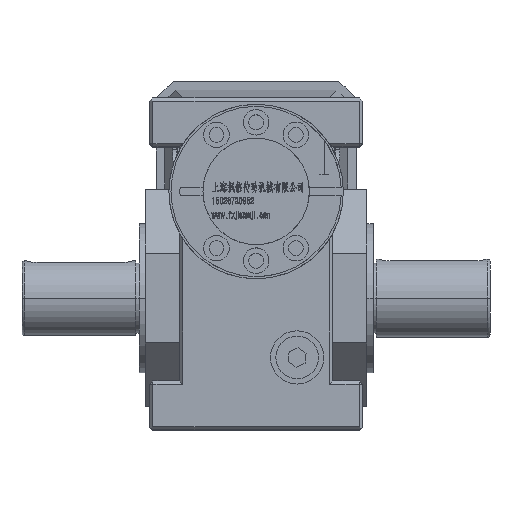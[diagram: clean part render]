
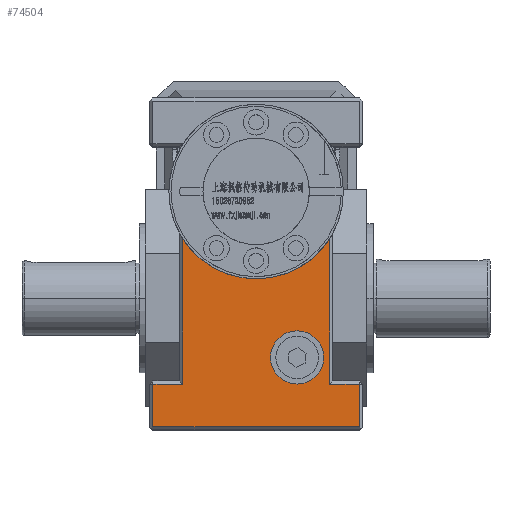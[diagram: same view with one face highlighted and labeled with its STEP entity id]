
A CAD part, top view. The second image highlights one B-rep face of the part: STEP entity #74504.
In plain terms, the highlighted planar face has unit normal (0, 0, 1).
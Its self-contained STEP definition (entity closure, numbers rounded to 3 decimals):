
#2162 = AXIS2_PLACEMENT_3D ( 'NONE', #105301, #27439, #88076 ) ;
#3432 = LINE ( 'NONE', #106292, #69213 ) ;
#4381 = VECTOR ( 'NONE', #52666, 1000. ) ;
#6116 = AXIS2_PLACEMENT_3D ( 'NONE', #69802, #103184, #85970 ) ;
#6415 = VECTOR ( 'NONE', #52557, 1000. ) ;
#6865 = EDGE_CURVE ( 'NONE', #72179, #88661, #36023, .T. ) ;
#7509 = CIRCLE ( 'NONE', #2162, 12.5 ) ;
#7943 = CARTESIAN_POINT ( 'NONE',  ( -34.5, -40.5, 68.5 ) ) ;
#9820 = ORIENTED_EDGE ( 'NONE', *, *, #95117, .T. ) ;
#10948 = LINE ( 'NONE', #94954, #4381 ) ;
#13726 = FACE_BOUND ( 'NONE', #81836, .T. ) ;
#14278 = LINE ( 'NONE', #82710, #31397 ) ;
#14666 = VERTEX_POINT ( 'NONE', #84071 ) ;
#15328 = CARTESIAN_POINT ( 'NONE',  ( 6.753, -27.925, 68.5 ) ) ;
#16458 = DIRECTION ( 'NONE',  ( -1., 0., 0. ) ) ;
#17148 = EDGE_LOOP ( 'NONE', ( #52296, #100224, #87306, #105512, #9820, #52987, #23002, #48614 ) ) ;
#18672 = CIRCLE ( 'NONE', #73814, 12.5 ) ;
#19689 = CARTESIAN_POINT ( 'NONE',  ( -48.5, -60.5, 68.5 ) ) ;
#21730 = CARTESIAN_POINT ( 'NONE',  ( -50., -40.5, 68.5 ) ) ;
#23002 = ORIENTED_EDGE ( 'NONE', *, *, #101707, .T. ) ;
#24299 = VERTEX_POINT ( 'NONE', #94286 ) ;
#24873 = DIRECTION ( 'NONE',  ( 0., 0., 1. ) ) ;
#25999 = EDGE_CURVE ( 'NONE', #53299, #72928, #30947, .T. ) ;
#27439 = DIRECTION ( 'NONE',  ( 0., 0., 1. ) ) ;
#30947 = CIRCLE ( 'NONE', #6116, 41. ) ;
#31397 = VECTOR ( 'NONE', #38204, 1000. ) ;
#35237 = CARTESIAN_POINT ( 'NONE',  ( 31.753, -27.925, 68.5 ) ) ;
#35873 = ORIENTED_EDGE ( 'NONE', *, *, #60184, .F. ) ;
#36023 = LINE ( 'NONE', #36582, #45952 ) ;
#36582 = CARTESIAN_POINT ( 'NONE',  ( 48.5, -39., 68.5 ) ) ;
#38204 = DIRECTION ( 'NONE',  ( 0., 1., 0. ) ) ;
#40106 = LINE ( 'NONE', #21730, #104584 ) ;
#42435 = EDGE_CURVE ( 'NONE', #45099, #67122, #18672, .T. ) ;
#45099 = VERTEX_POINT ( 'NONE', #15328 ) ;
#45952 = VECTOR ( 'NONE', #97757, 1000. ) ;
#46664 = VERTEX_POINT ( 'NONE', #7943 ) ;
#48614 = ORIENTED_EDGE ( 'NONE', *, *, #98357, .T. ) ;
#52296 = ORIENTED_EDGE ( 'NONE', *, *, #53872, .T. ) ;
#52557 = DIRECTION ( 'NONE',  ( 1., 0., 0. ) ) ;
#52666 = DIRECTION ( 'NONE',  ( -1., 0., 0. ) ) ;
#52987 = ORIENTED_EDGE ( 'NONE', *, *, #25999, .F. ) ;
#53299 = VERTEX_POINT ( 'NONE', #108355 ) ;
#53872 = EDGE_CURVE ( 'NONE', #14666, #90569, #3432, .T. ) ;
#56703 = CARTESIAN_POINT ( 'NONE',  ( 48.5, -60.5, 68.5 ) ) ;
#60184 = EDGE_CURVE ( 'NONE', #67122, #45099, #7509, .T. ) ;
#61448 = LINE ( 'NONE', #104270, #6415 ) ;
#67122 = VERTEX_POINT ( 'NONE', #35237 ) ;
#67163 = DIRECTION ( 'NONE',  ( 1., 0., 0. ) ) ;
#69213 = VECTOR ( 'NONE', #87432, 1000. ) ;
#69802 = CARTESIAN_POINT ( 'NONE',  ( 0., 50., 68.5 ) ) ;
#72179 = VERTEX_POINT ( 'NONE', #56703 ) ;
#72928 = VERTEX_POINT ( 'NONE', #100644 ) ;
#73814 = AXIS2_PLACEMENT_3D ( 'NONE', #81667, #24873, #67163 ) ;
#74026 = DIRECTION ( 'NONE',  ( -1., 0., 0. ) ) ;
#74504 = ADVANCED_FACE ( 'NONE', ( #13726, #81604 ), #107166, .F. ) ;
#81604 = FACE_OUTER_BOUND ( 'NONE', #17148, .T. ) ;
#81613 = AXIS2_PLACEMENT_3D ( 'NONE', #109924, #92686, #16458 ) ;
#81667 = CARTESIAN_POINT ( 'NONE',  ( 19.253, -27.925, 68.5 ) ) ;
#81836 = EDGE_LOOP ( 'NONE', ( #35873, #92832 ) ) ;
#82710 = CARTESIAN_POINT ( 'NONE',  ( 34.5, 30.379, 68.5 ) ) ;
#84071 = CARTESIAN_POINT ( 'NONE',  ( -48.5, -40.5, 68.5 ) ) ;
#85076 = VECTOR ( 'NONE', #104969, 1000. ) ;
#85878 = EDGE_CURVE ( 'NONE', #88661, #24299, #10948, .T. ) ;
#85970 = DIRECTION ( 'NONE',  ( 0., 1., 0. ) ) ;
#86298 = CARTESIAN_POINT ( 'NONE',  ( 48.5, -40.5, 68.5 ) ) ;
#87306 = ORIENTED_EDGE ( 'NONE', *, *, #6865, .T. ) ;
#87432 = DIRECTION ( 'NONE',  ( 0., -1., 0. ) ) ;
#87741 = LINE ( 'NONE', #96102, #85076 ) ;
#88076 = DIRECTION ( 'NONE',  ( 1., 0., 0. ) ) ;
#88661 = VERTEX_POINT ( 'NONE', #86298 ) ;
#90569 = VERTEX_POINT ( 'NONE', #19689 ) ;
#92686 = DIRECTION ( 'NONE',  ( 0., 0., -1. ) ) ;
#92832 = ORIENTED_EDGE ( 'NONE', *, *, #42435, .F. ) ;
#94220 = EDGE_CURVE ( 'NONE', #90569, #72179, #61448, .T. ) ;
#94286 = CARTESIAN_POINT ( 'NONE',  ( 34.5, -40.5, 68.5 ) ) ;
#94954 = CARTESIAN_POINT ( 'NONE',  ( 50., -40.5, 68.5 ) ) ;
#95117 = EDGE_CURVE ( 'NONE', #24299, #72928, #14278, .T. ) ;
#96102 = CARTESIAN_POINT ( 'NONE',  ( -34.5, -39., 68.5 ) ) ;
#97757 = DIRECTION ( 'NONE',  ( 0., 1., 0. ) ) ;
#98357 = EDGE_CURVE ( 'NONE', #46664, #14666, #40106, .T. ) ;
#100224 = ORIENTED_EDGE ( 'NONE', *, *, #94220, .T. ) ;
#100644 = CARTESIAN_POINT ( 'NONE',  ( 34.5, 27.847, 68.5 ) ) ;
#101707 = EDGE_CURVE ( 'NONE', #53299, #46664, #87741, .T. ) ;
#103184 = DIRECTION ( 'NONE',  ( 0., 0., 1. ) ) ;
#104270 = CARTESIAN_POINT ( 'NONE',  ( 50., -60.5, 68.5 ) ) ;
#104584 = VECTOR ( 'NONE', #74026, 1000. ) ;
#104969 = DIRECTION ( 'NONE',  ( 0., -1., 0. ) ) ;
#105301 = CARTESIAN_POINT ( 'NONE',  ( 19.253, -27.925, 68.5 ) ) ;
#105512 = ORIENTED_EDGE ( 'NONE', *, *, #85878, .T. ) ;
#106292 = CARTESIAN_POINT ( 'NONE',  ( -48.5, 94., 68.5 ) ) ;
#107166 = PLANE ( 'NONE',  #81613 ) ;
#108355 = CARTESIAN_POINT ( 'NONE',  ( -34.5, 27.847, 68.5 ) ) ;
#109924 = CARTESIAN_POINT ( 'NONE',  ( 50., 94., 68.5 ) ) ;
